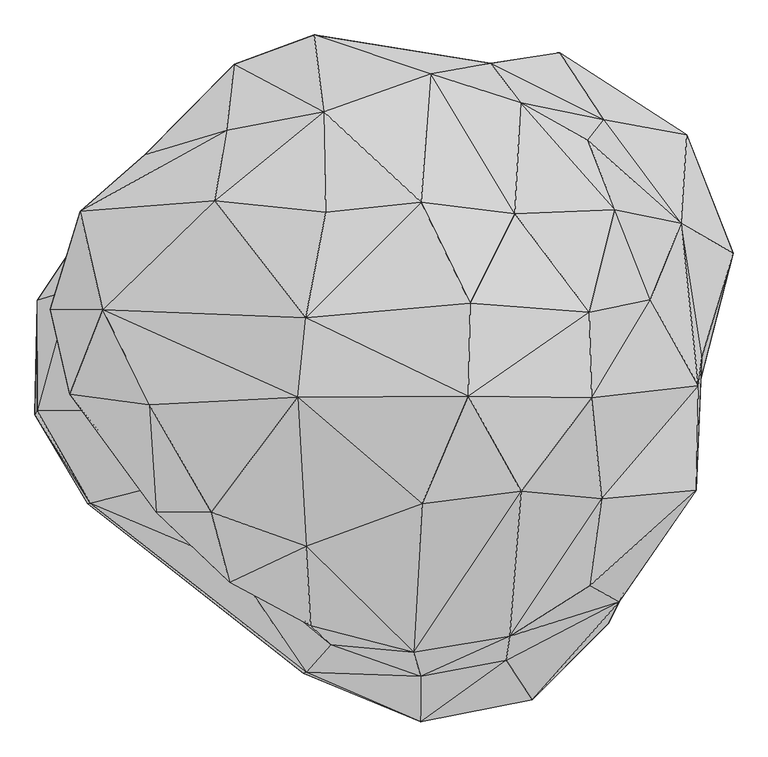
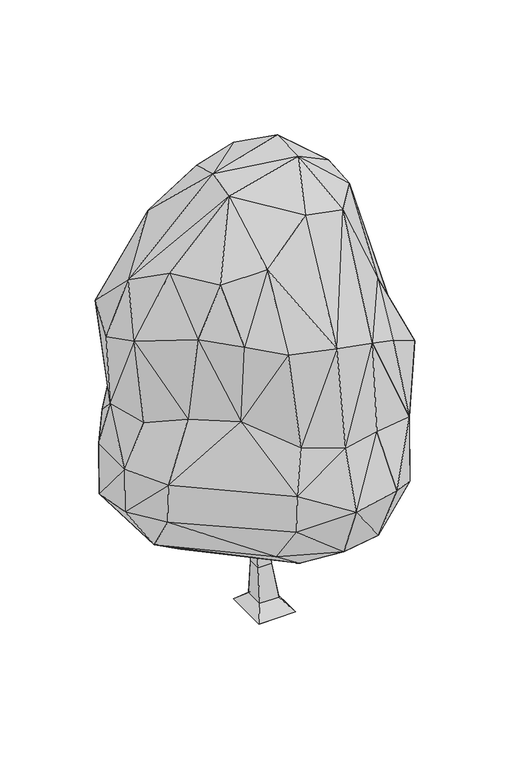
"""IFC4 building model written with IfcOpenShell, lengths in millimetres: geographic element geometry, Enscape AssetDefinition - Evergreen Tree 066 Lophostemon : Enscape AssetDefinition - Evergreen Tree 066 Lophostemon 3."""

from ifc_helpers import new_model, si_unit, origin, place, context, project, spatial, triangles, source, transform, mapped, element, save


def geographic_element_db24e404(model_context):
    return source(origin(), model_context, "Body", "Tessellation", [
        triangles([(276.3639995, 302.0989839, 0.0), (276.3639995, -434.8359944, 0.0), (-333.2509887, -434.8359944, 0.0), (-333.2509887, 302.0989839, 0.0), (-159.5729997, -159.5729997, 134.9039931), (-134.2950005, -70.8800031, 697.2570042), (159.5729997, 159.5729997, 134.9039931), (-159.5729997, 159.5729997, 134.9039931), (159.5729997, -159.5729997, 134.9039931), (91.7229987, 155.1380051, 697.2570042), (-181.3530111, 91.41, 2372.8659187), (-134.2950005, 155.1380051, 697.2570042), (-181.3530111, 284.6969938, 2372.8659187), (11.9339997, 284.6969938, 2372.8659187), (91.7229987, -70.8800031, 697.2570042), (11.9339997, 91.41, 2372.8659187), (1328.6620686, 438.4069974, 7059.7080368), (858.2830038, 1870.1679691, 5501.6200012), (243.4370122, 2070.5130077, 5586.2113495), (820.0569941, 1110.3249596, 7131.8187515), (514.1760281, 498.5649897, 7746.5172775), (179.6659956, 1187.9210226, 7315.4569611), (-610.1539633, 400.669984, 7513.2559341), (-489.2040058, 1808.9949589, 6242.5770996), (-1102.0519907, 2133.0658756, 4184.651841), (-473.4229923, 1120.7710516, 7178.2432434), (-2155.1220875, 1126.6799932, 5393.4428833), (-1233.284024, 1201.3130104, 6609.1628632), (-1152.6879988, 1684.0729328, 5774.0202347), (-2359.643034, 456.8240055, 5222.103923), (-1712.5600021, 1514.2750122, 5088.9632126), (-2223.4139946, 588.5639657, 3924.7720642), (-2447.7049553, 518.1509671, 3344.2699974), (-2016.684026, 1167.7069948, 3397.9658478), (-2001.0960239, 454.7049851, 6106.4179688), (-2227.0130482, -123.8130004, 5447.4779572), (-1681.1129391, -195.3699971, 6499.8061661), (-664.9139929, -145.7599983, 7468.9824738), (502.3130167, -136.8830056, 7761.0082535), (1344.8029438, -148.9139937, 6997.5025314), (1747.94011, 522.43697, 5563.973172), (2075.2930939, -66.2250002, 4571.6581604), (185.4240017, -875.2289898, 7279.9312225), (863.3470116, -787.6710348, 7081.3096252), (-607.860971, -1165.6709999, 6773.6871231), (-576.4320027, -1709.5479767, 5586.3840134), (126.2570009, -1890.0330357, 5568.1479172), (175.0959984, -2054.1958351, 3893.9021461), (-1257.2710773, -932.4650311, 6584.2399658), (-1132.6739588, -1411.0988972, 5747.373024), (-1114.1580105, -1280.4119614, 4344.7661957), (-440.8129915, -1837.5189445, 3987.1859871), (-1709.2639824, -772.8029743, 4287.1729088), (-1634.8740463, -932.8500366, 5758.9397598), (-2134.8720154, -234.2640075, 4055.3088638), (-2085.1381325, -870.1449978, 3318.8529442), (-2450.4481018, -236.5970046, 3346.0382034), (-2464.9800636, -263.6309831, 2621.1190796), (-2448.9319153, 504.0640363, 2465.4009682), (-2104.9080013, -872.1089767, 2674.6001175), (-732.3640182, -1642.7139748, 2059.0860889), (-2060.4720509, -405.921989, 1985.6280727), (-1685.5330181, 441.2649988, 1665.9920597), (150.8959948, -2053.2788853, 2087.2170753), (-627.460029, -2033.4661411, 2684.9939598), (-191.1299942, -1358.716048, 1580.7269154), (733.7220022, 543.5870235, 1193.1910498), (-495.1659966, 1116.0659609, 1640.694912), (-1492.1760704, -183.2110009, 1574.1340038), (643.1990393, 1125.6400131, 1240.7149658), (1366.8739803, -1363.3179474, 2052.8339996), (708.0600512, -1261.40411, 1585.3299774), (2097.5510376, 1140.6789934, 1993.0059654), (1480.9270477, 369.2740079, 1374.4370361), (757.7150145, -2001.9299847, 2133.0590446), (1925.5599369, -672.316012, 2672.2232277), (2113.3689674, 412.613986, 1999.6500366), (1996.6800144, 1653.5771198, 2683.4600418), (1457.2030598, 1139.5870543, 1375.8959587), (1547.5660034, 1844.101973, 1920.3679573), (2313.1839512, 842.3910233, 2668.9391258), (2099.2250633, 130.2980061, 3541.678878), (1413.7748966, -837.608975, 5718.4009552), (2061.7080219, -782.5530333, 4358.294149), (1331.1350281, -1435.0249077, 5021.4272186), (784.7359669, -1780.0619865, 5365.9370041), (1460.7339489, -1690.0500389, 2649.512986), (1534.6519661, -1542.6299675, 3665.1989548), (940.3359896, -2214.4780575, 2982.8519417), (760.984001, -1945.3289337, 3921.1240311), (176.1119974, -2366.5850521, 2962.1491356), (-609.2299644, -2026.7669861, 3298.3370453), (1957.1080112, 1046.4650494, 3794.3931038), (1429.1460514, 1753.732925, 3918.5172134), (1504.6330135, 1140.2080193, 5710.3508652), (1319.8089752, 1612.8370193, 5166.604985), (1126.6330484, 2214.9140774, 2684.7570557), (654.9739746, 2140.6809631, 3587.9908768), (-552.6609973, 2334.7781273, 4228.2279602), (789.158008, 1920.5210003, 1695.3649761), (-1200.5850025, 1681.2979568, 3030.3191025), (-96.2139946, 2015.413028, 2884.5521278), (57.7600009, 1789.3109859, 1943.7610062), (-1956.9320045, 1269.8240902, 2599.8299721), (-1727.9129894, 1083.2330086, 2045.6139462)], [[34, 59, 33], [34, 104, 59], [104, 105, 59], [59, 105, 63], [68, 63, 105], [25, 101, 34], [34, 101, 104], [104, 101, 105], [105, 103, 68], [101, 103, 105], [70, 68, 103], [100, 70, 103], [25, 99, 102], [25, 102, 101], [102, 100, 103], [102, 103, 101], [102, 97, 100], [97, 102, 98], [98, 102, 99], [18, 94, 98], [98, 94, 97], [96, 94, 18], [96, 18, 95], [96, 95, 93], [96, 93, 94], [93, 95, 41], [91, 65, 64], [75, 91, 64], [92, 91, 48], [65, 91, 92], [75, 89, 91], [87, 89, 75], [91, 89, 90], [91, 90, 48], [90, 86, 48], [88, 89, 87], [89, 88, 90], [88, 86, 90], [76, 88, 87], [88, 85, 86], [85, 83, 86], [76, 84, 88], [84, 85, 88], [83, 85, 84], [93, 41, 42], [83, 84, 42], [93, 42, 82], [76, 82, 84], [42, 84, 82], [81, 93, 82], [76, 81, 82], [94, 93, 78], [94, 78, 97], [93, 81, 78], [97, 80, 100], [97, 78, 80], [80, 79, 100], [79, 70, 100], [73, 79, 80], [80, 78, 73], [81, 73, 78], [81, 77, 73], [81, 76, 77], [76, 87, 71], [71, 77, 76], [87, 75, 71], [70, 79, 74], [74, 79, 73], [77, 71, 74], [74, 73, 77], [71, 75, 72], [74, 71, 72], [70, 74, 67], [74, 72, 67], [68, 69, 63], [68, 70, 69], [70, 67, 69], [75, 64, 66], [72, 66, 67], [75, 66, 72], [66, 69, 67], [66, 64, 61], [61, 64, 65], [62, 59, 63], [66, 62, 69], [61, 62, 66], [62, 63, 69], [61, 65, 60], [61, 60, 62], [60, 58, 62], [59, 62, 58], [57, 33, 59], [57, 59, 58], [56, 57, 58], [65, 92, 56], [56, 58, 60], [65, 56, 60], [56, 55, 57], [56, 53, 55], [36, 55, 53], [36, 54, 37], [36, 53, 54], [54, 53, 51], [92, 51, 56], [51, 53, 56], [52, 51, 92], [48, 52, 92], [46, 51, 52], [46, 50, 51], [54, 51, 50], [49, 54, 50], [49, 37, 54], [37, 49, 38], [38, 49, 45], [45, 49, 50], [50, 46, 45], [47, 46, 52], [86, 47, 48], [47, 52, 48], [46, 47, 45], [43, 45, 47], [43, 38, 45], [44, 47, 86], [44, 43, 47], [83, 44, 86], [41, 40, 42], [44, 83, 40], [42, 40, 83], [41, 17, 40], [17, 41, 95], [43, 39, 38], [39, 43, 44], [44, 40, 39], [17, 39, 40], [39, 23, 38], [35, 37, 38], [35, 36, 37], [35, 38, 23], [35, 30, 36], [32, 25, 34], [32, 33, 57], [36, 30, 32], [34, 33, 32], [32, 57, 55], [36, 32, 55], [32, 31, 25], [32, 27, 31], [27, 32, 30], [35, 27, 30], [31, 29, 25], [27, 29, 31], [28, 27, 35], [28, 29, 27], [28, 35, 23], [23, 26, 28], [24, 99, 25], [24, 25, 29], [28, 24, 29], [24, 28, 26], [19, 18, 98], [99, 19, 98], [24, 19, 99], [22, 19, 24], [22, 26, 23], [22, 24, 26], [39, 21, 23], [17, 21, 39], [22, 23, 21], [21, 20, 22], [95, 20, 17], [20, 18, 19], [22, 20, 19], [20, 95, 18], [20, 21, 17], [15, 14, 16], [15, 10, 14], [10, 13, 14], [12, 11, 13], [10, 12, 13], [6, 16, 11], [6, 15, 16], [12, 6, 11], [5, 15, 6], [9, 10, 15], [5, 9, 15], [7, 12, 10], [9, 7, 10], [7, 8, 12], [8, 6, 12], [8, 5, 6], [4, 5, 8], [4, 3, 5], [3, 9, 5], [2, 7, 9], [3, 2, 9], [2, 1, 7], [1, 8, 7], [1, 4, 8], [1, 3, 4], [1, 2, 3]], closed=False),
    ])


if __name__ == "__main__":
    model = new_model("IFC4")
    model_context = context("Model", 3, world=origin())
    ifc_project = project(units=[si_unit("LENGTHUNIT", "METRE", prefix="MILLI")], contexts=[model_context])
    site = spatial("IfcSite", under=ifc_project)
    building = spatial("IfcBuilding", under=site)
    placement = place(None, origin())
    geographic_element_shape = geographic_element_db24e404(model_context)
    element("IfcGeographicElement", 1, ObjectType="Enscape AssetDefinition - Evergreen Tree 066 Lophostemon : Enscape AssetDefinition - Evergreen Tree 066 Lophostemon 3", at=placement, inside=building, context=model_context, shape_type="MappedRepresentation", body=[
        mapped(geographic_element_shape, transform((0.0, 0.0, 0.0), x_axis=(1.0, 0.0, 0.0), y_axis=(0.0, 1.0, 0.0), z_axis=(0.0, 0.0, 1.0))),
    ])
    save(model, "model.ifc")
